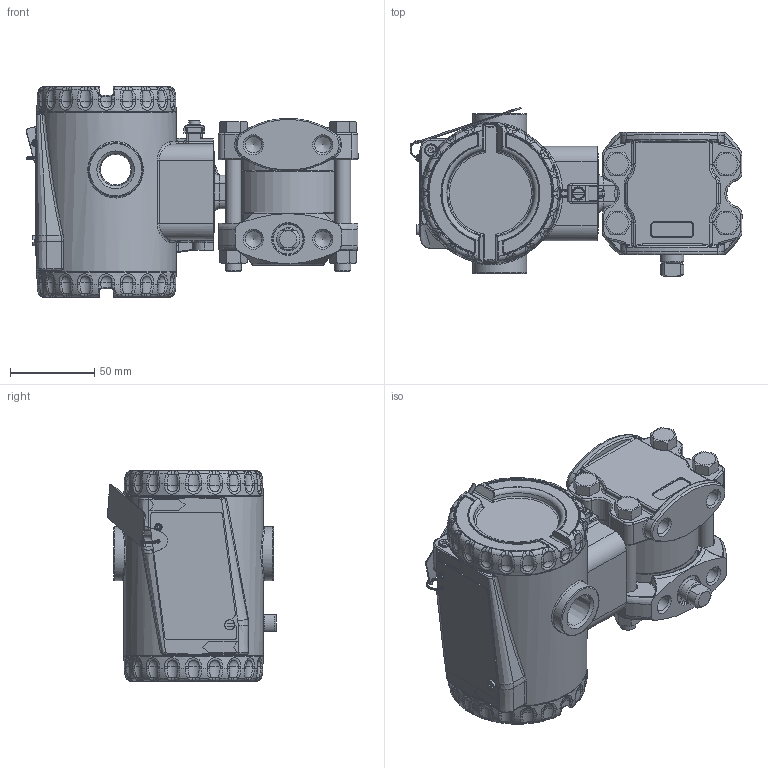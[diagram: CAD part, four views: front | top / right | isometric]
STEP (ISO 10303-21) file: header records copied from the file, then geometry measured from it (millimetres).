
FILE_DESCRIPTION(/* description */ (''),/* implementation_level */ '2;1');
FILE_NAME(/* name */ 'F:\Area\Desenvolvimento_2\Projects\Sensor\projetos\LD400-3d\dimensionais 3D clientes\LD400M4 1-4NPT Monel sem purga.stp',/* time_stamp */ '2023-02-02T13:47:26-03:00',/* author */ ('inventor02'),/* organization */ (''),/* preprocessor_version */ 'ST-DEVELOPER v17',/* originating_system */ 'Autodesk Inventor 2019',/* authorisation */ '');
FILE_SCHEMA (('CONFIG_CONTROL_DESIGN'));
Products named in the file (29): LD400M4 1-4NPT Monel sem purga; Carcaça 400 com tampas e plaqueta sem letras; 101-D-0845-05 carcaça LD400 sem letras; 101-B-3614-03-tampa 400 sem letras; Tampa visor 400 montada sem letras; 101-B-3612-05 tampa visor 400 sem letras; 101-A-6107; oring 2034; 00034775-0; WHW_250; DIN 915 - M6 x 10; Chapa aterramento externo; 201-A-1771-02 inserto terra recartilhado; AS 1969 - ST4,2; ISO 1207 - M4 x 8; ANSI B18.3.1M - M4x0,7 x 8; Subconjunto plaqueta 400; plaqueta 400 em branco; Parafuso da Plaqueta; Rebite da Plaqueta; 096-A-0169-03; 101-A-0502-01; manometrico FX4 monel sem purga; involucro fx4 apos a usinagem final; 101-C-0040-05 monel barra 7-16; 096-C-0014-13 manom reforçado; bujao 1-4NPT; Paraf. 3-8 x 16 UNC; Porca 3-8 x 16 UNC
Assembly tree (35 placements, depth 4):
  LD400M4 1-4NPT Monel sem purga
    Carcaça 400 com tampas e plaqueta sem letras
      101-D-0845-05 carcaça LD400 sem letras
      101-B-3614-03-tampa 400 sem letras
      Tampa visor 400 montada sem letras
        101-B-3612-05 tampa visor 400 sem letras
        101-A-6107
        oring 2034
        00034775-0
        WHW_250
      DIN 915 - M6 x 10
      Chapa aterramento externo
      201-A-1771-02 inserto terra recartilhado
      AS 1969 - ST4,2
      ISO 1207 - M4 x 8
      ANSI B18.3.1M - M4x0,7 x 8  x2
      Subconjunto plaqueta 400
        plaqueta 400 em branco
        Parafuso da Plaqueta
        Rebite da Plaqueta
        096-A-0169-03
        101-A-0502-01
    manometrico FX4 monel sem purga
      involucro fx4 apos a usinagem final
      101-C-0040-05 monel barra 7-16
      096-C-0014-13 manom reforçado
      bujao 1-4NPT
      Paraf. 3-8 x 16 UNC  x4
      Porca 3-8 x 16 UNC  x4
Bounding box: 197.27 x 100.39 x 125 mm (x, y, z)
Volume: 639353.2 mm3; surface area: 234579.9 mm2
Topology: 31 solids, 31 shells, 2333 faces, 5722 edges, 3443 vertices
Faces by surface type: plane 614, cylinder 547, bspline 525, torus 396, cone 194, sphere 57
Full cylindrical faces by diameter (mm): 2 x2, 2.1 x1, 2.2 x1, 2.459 x3, 2.7 x1, 3 x1, 3.242 x3, 3.571 x1, 4 x4, 4.3 x2, 4.4 x1, 4.917 x1, 5 x2, 6 x2, 6.1 x2, 6.2 x1, 7 x2, 7.6 x2, 7.798 x4, 9.525 x4, 9.728 x8, 10.5 x8, 10.719 x2, 12 x1, 13.8 x1, 14 x1, 18.3 x2, 18.5 x2, 26 x1, 32 x2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
Entity records: 86313 total; most frequent: CARTESIAN_POINT 34380, ORIENTED_EDGE 10914, DIRECTION 10452, EDGE_CURVE 5457, AXIS2_PLACEMENT_3D 4426, VERTEX_POINT 3309, CIRCLE 2562, EDGE_LOOP 2342
